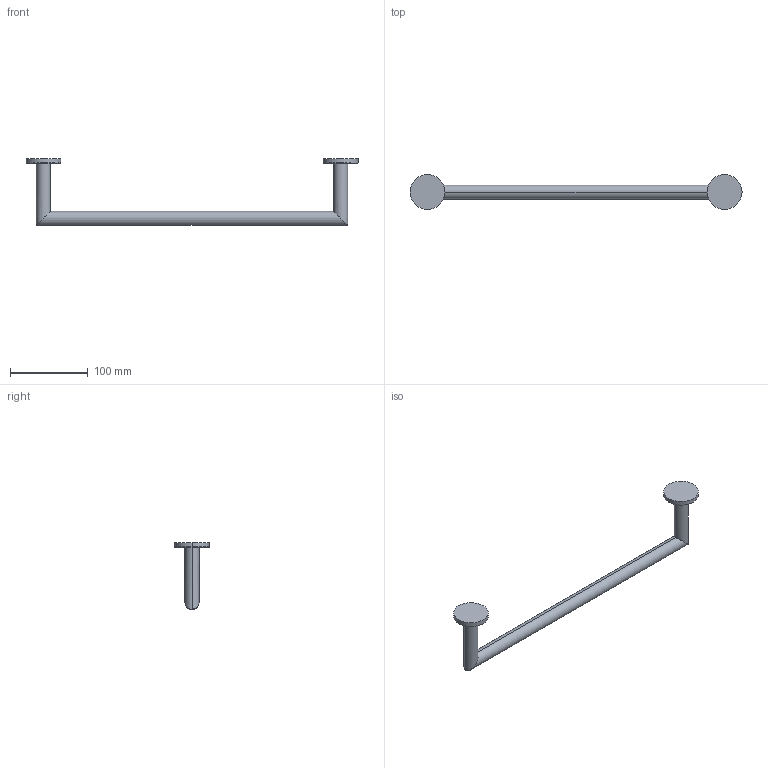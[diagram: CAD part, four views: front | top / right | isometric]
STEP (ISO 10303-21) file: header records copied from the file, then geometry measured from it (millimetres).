
FILE_DESCRIPTION((''),'2;1');
FILE_NAME('45306','2020-12-10T08:06:06',('carloff'),(''),'CREO PARAMETRIC BY PTC INC, 2018100','CREO PARAMETRIC BY PTC INC, 2018100','');
FILE_SCHEMA(('CONFIG_CONTROL_DESIGN'));
Length unit declared in the file: millimetre
Products named in the file (1): 45306
Bounding box: 426.7 x 44.7 x 86 mm (x, y, z)
Volume: 152167.8 mm3; surface area: 37042.8 mm2
Topology: 1 solids, 1 shells, 26 faces, 50 edges, 28 vertices
Faces by surface type: cylinder 10, bspline 8, plane 4, torus 4
Entity records: 1384 total; most frequent: CARTESIAN_POINT 864, ORIENTED_EDGE 100, DIRECTION 94, EDGE_CURVE 50, AXIS2_PLACEMENT_3D 42, VERTEX_POINT 28, EDGE_LOOP 28, FACE_OUTER_BOUND 26
